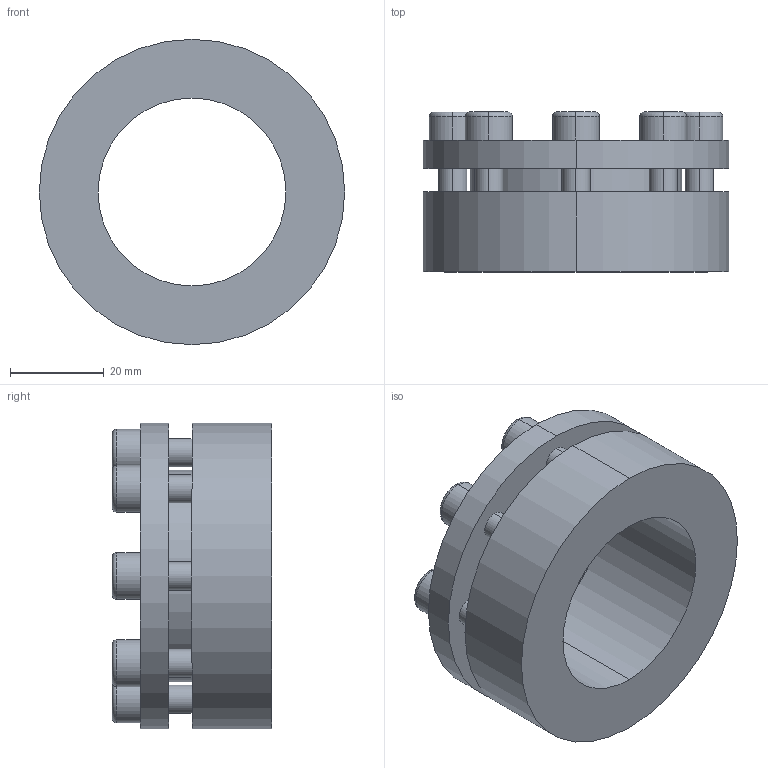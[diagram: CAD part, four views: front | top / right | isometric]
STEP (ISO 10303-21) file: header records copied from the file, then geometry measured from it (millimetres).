
FILE_DESCRIPTION (( 'STEP AP203' ), '1' );
FILE_NAME ('PL-H3 40-65.STEP', '2021-10-23T01:07:44', ( '' ), ( '' ), 'SwSTEP 2.0', 'SolidWorks 2018', '' );
FILE_SCHEMA (( 'CONFIG_CONTROL_DESIGN' ));
Length unit declared in the file: millimetre
Products named in the file (1): PL-H3 40-65
Bounding box: 65 x 34 x 65 mm (x, y, z)
Volume: 53417.1 mm3; surface area: 18615 mm2
Topology: 1 solids, 1 shells, 124 faces, 296 edges, 192 vertices
Faces by surface type: plane 68, cylinder 40, torus 16
Entity records: 3717 total; most frequent: DIRECTION 658, CARTESIAN_POINT 613, ORIENTED_EDGE 592, EDGE_CURVE 296, AXIS2_PLACEMENT_3D 237, VERTEX_POINT 192, VECTOR 184, LINE 184
